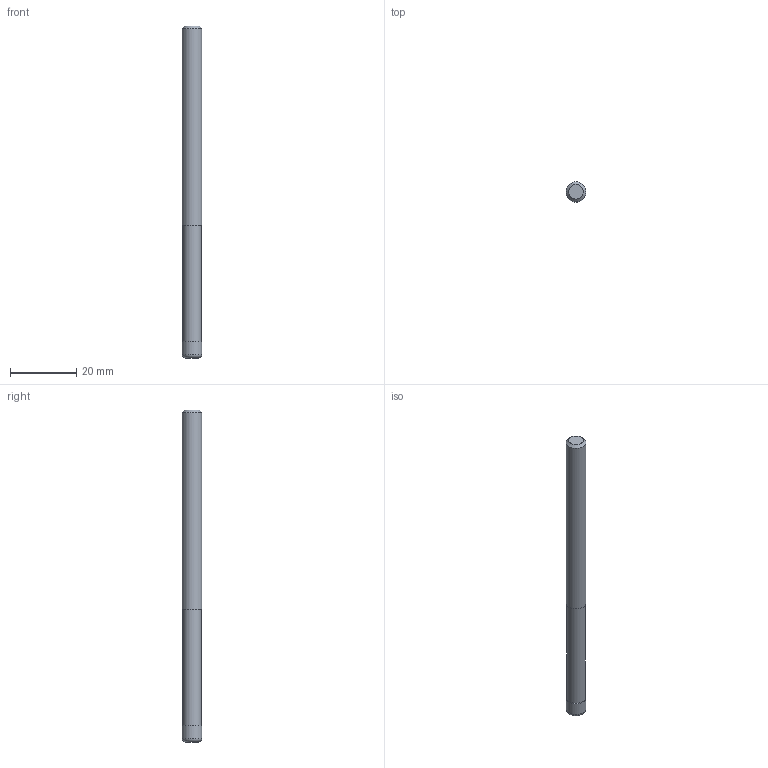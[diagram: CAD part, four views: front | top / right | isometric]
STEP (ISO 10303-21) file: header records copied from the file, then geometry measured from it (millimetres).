
FILE_DESCRIPTION((''),'2;1');
FILE_NAME('C:\Users\nsx150\AppData\Local\Temp\Mastercam 2021\CSMVKW3037\TEMP.step','2023-06-23T16:05:38',(''),(''),'STEP Write','Mastercam 2021 ... CNC Software, Inc.','');
FILE_SCHEMA(('AUTOMOTIVE_DESIGN'));
Length unit declared in the file: millimetre
Products named in the file (1): None
Bounding box: 6 x 6 x 100 mm (x, y, z)
Volume: 2721.7 mm3; surface area: 1946.9 mm2
Topology: 2 solids, 2 shells, 10 faces, 13 edges, 8 vertices
Faces by surface type: plane 5, cylinder 3, torus 1, cone 1
Full cylindrical faces by diameter (mm): 5.7 x1, 6 x2
Entity records: 232 total; most frequent: DIRECTION 40, CARTESIAN_POINT 28, AXIS2_PLACEMENT_3D 20, ORIENTED_EDGE 16, EDGE_LOOP 16, STYLED_ITEM 13, ADVANCED_FACE 10, FACE_BOUND 10
